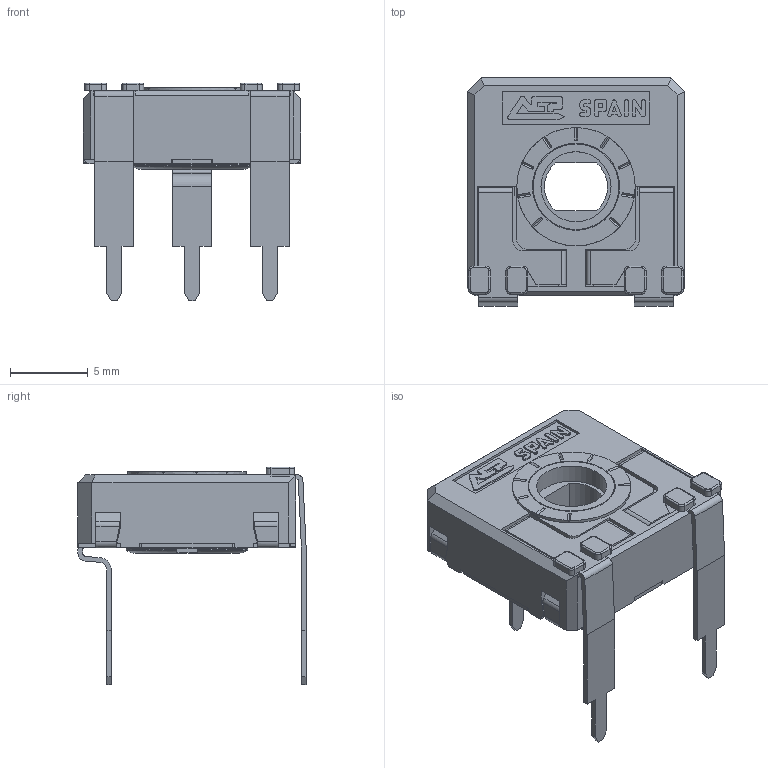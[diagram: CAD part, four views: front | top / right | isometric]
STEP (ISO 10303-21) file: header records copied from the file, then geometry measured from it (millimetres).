
FILE_DESCRIPTION(/* description */ (''),/* implementation_level */ '2;1');
FILE_NAME(/* name */ 'C:\Users\CEM\Desktop\ENVIAR\TRANSICION 3D CATALOGOS\RS14NVL12,5.stp',/* time_stamp */ '2025-12-10T11:07:20+01:00',/* author */ ('CEM'),/* organization */ (''),/* preprocessor_version */ 'ST-DEVELOPER v16.13',/* originating_system */ 'Autodesk Inventor 2018',/* authorisation */ '');
FILE_SCHEMA (('AUTOMOTIVE_DESIGN { 1 0 10303 214 3 1 1 }'));
Length unit declared in the file: millimetre
Products named in the file (1): CARCASA CA14 PGA
Bounding box: 14 x 14.65 x 14 mm (x, y, z)
Volume: 534.5 mm3; surface area: 1532.2 mm2
Topology: 1 solids, 1 shells, 679 faces, 1914 edges, 1232 vertices
Faces by surface type: plane 499, cylinder 143, torus 23, bspline 8, cone 6
Full cylindrical faces by diameter (mm): 4.5 x1, 5.5 x1, 5.6 x1, 5.752 x1, 6.8 x1, 7.6 x1
Entity records: 22022 total; most frequent: CARTESIAN_POINT 4020, ORIENTED_EDGE 3800, DIRECTION 3588, EDGE_CURVE 1900, LINE 1500, VECTOR 1500, VERTEX_POINT 1228, AXIS2_PLACEMENT_3D 1044
